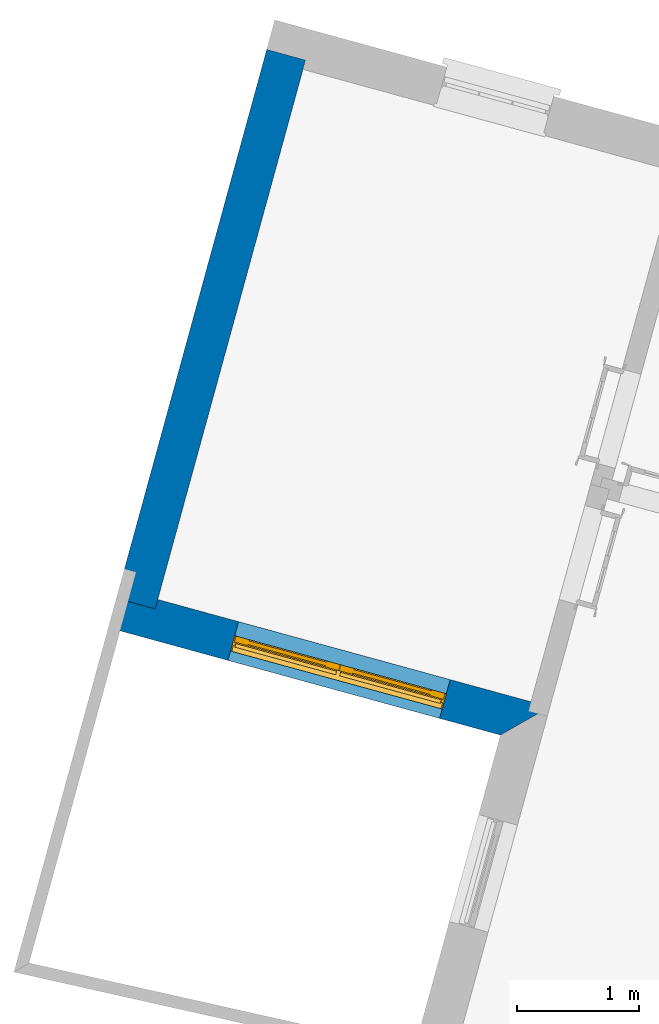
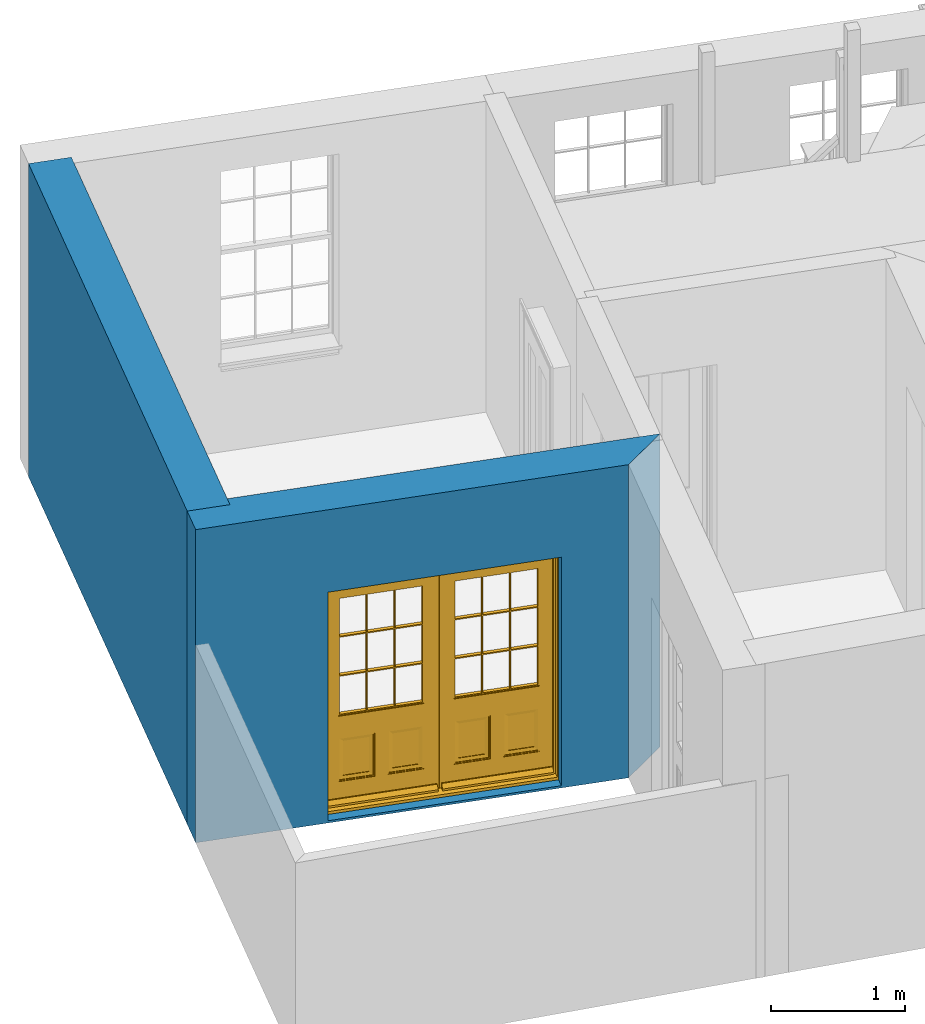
# One storey, part 3 of 7: 2 walls, 1 door, 1 opening.
"""IFC4 building model written with IfcOpenShell, lengths in metres."""

from ifc_helpers import new_model, si_unit, frame, origin, origin_with_axes, place, context, subcontext, project, spatial, polyline, outline, extrude, faceted_brep, source, transform, mapped, material, layer, layer_set, layer_usage, type_object, type_shapes, element, fill, save


model = new_model("IFC4")

# Units and contexts
model_context = context("Model", 3, world=origin_with_axes())
body_context = subcontext(model_context, "Body", "Model", "MODEL_VIEW")
ifc_project = project(units=[si_unit("PLANEANGLEUNIT", "RADIAN"), si_unit("MASSUNIT", "GRAM", prefix="KILO"), si_unit("FORCEUNIT", "NEWTON", prefix="KILO"), si_unit("LENGTHUNIT", "METRE"), si_unit("AREAUNIT", "SQUARE_METRE"), si_unit("VOLUMEUNIT", "CUBIC_METRE")], contexts=[model_context, model_context])

# Sites, building, storey
site_1_placement = place(None, origin_with_axes())
site_1 = spatial("IfcSite", under=ifc_project, at=site_1_placement, Name="Tamar")
site_2_placement = place(site_1_placement, origin_with_axes())
site_2 = spatial("IfcSite", under=site_1, at=site_2_placement, Name="Site plot-29", CompositionType="ELEMENT")
building_placement = place(None, origin_with_axes())
building = spatial("IfcBuilding", under=site_2, at=building_placement, Name="Building plot-29", CompositionType="ELEMENT")
storey_placement = place(None, frame((0.0, 0.0, 25.0), z_axis=(0.0, 0.0, 1.0), x_axis=(1.0, 0.0, 0.0)))
storey = spatial("IfcBuildingStorey", under=building, at=storey_placement, Name="plot-29 0", CompositionType="ELEMENT", Elevation=25.0)

# Wall, opening, door
ifc_material_1 = material(Name="Masonry")
ifc_layer_1 = layer(ifc_material_1, 0.33, ventilated=False)
ifc_layer_set_1 = layer_set([ifc_layer_1], Name="exterior_0.08_0.25")
ifc_layer_usage_1 = layer_usage(ifc_layer_set_1, "AXIS2", "POSITIVE", -0.25)
wall_type_1 = type_object("IfcWallType", Name="exterior_0.08_0.25", PredefinedType="SOLIDWALL", material=ifc_layer_set_1)
wall_1_placement = place(storey_placement, frame((269.834483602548, 261.552062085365, 0.0), z_axis=(0.0, 0.0, 1.0), x_axis=(0.96445276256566, -0.264255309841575, 0.0)))
wall_1 = element("IfcWall", 1, at=wall_1_placement, inside=storey, type_object=wall_type_1, material=ifc_layer_usage_1, Name="exterior", context=body_context, shape_type="SweptSolid", body=[
    extrude(outline(polyline([(-0.249999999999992, 0.0799999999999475), (-0.249999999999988, -0.250000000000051), (3.08559293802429, -0.250000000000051), (3.41559293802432, 0.0800000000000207), (-0.249999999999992, 0.0799999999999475)])), origin_with_axes(), (0.0, 0.0, 1.0), 2.85),
])
opening_placement = place(wall_1_placement, frame((0.767796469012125, 0.0, 0.0199999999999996)))
opening = element("IfcOpeningElement", 2, at=opening_placement, cuts=wall_1, Name="My Opening", ObjectType="Opening", context=body_context, shape_type="SweptSolid", body=[
    extrude(outline(polyline([(0.0, -0.270000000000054), (1.79999999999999, -0.269999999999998), (1.80000000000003, 1.10000000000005), (3.61932706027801e-14, 1.1), (0.0, -0.270000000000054)])), origin_with_axes(), (0.0, 0.0, 1.0), 2.08),
])
door_type = type_object("IfcDoorType", Name="door_panelled_double", OperationType="SINGLE_SWING_LEFT", PredefinedType="NOTDEFINED")
shared_shape = source(origin(), body_context, "Body", "Brep", [
    faceted_brep([(0.545, 0.195, 0.265), (0.745, 0.195, 0.265), (0.745, 0.2, 0.265), (0.545, 0.2, 0.265), (0.745, 0.2, 0.58), (0.545, 0.2, 0.58), (0.545, 0.195, 0.58), (0.515, 0.19, 0.235), (0.775, 0.19, 0.235), (0.745, 0.195, 0.58), (0.515, 0.19, 0.61), (0.515, 0.185, 0.235), (0.775, 0.185, 0.235), (0.775, 0.19, 0.61), (0.515, 0.185, 0.61), (0.785, 0.185, 0.225), (0.505, 0.185, 0.225), (0.775, 0.185, 0.61), (0.505, 0.185, 0.62), (0.785, 0.185, 0.62), (0.505, 0.18, 0.225), (0.785, 0.18, 0.225), (0.505, 0.18, 0.62), (0.785, 0.18, 0.62), (0.883, 0.18, 0.075), (0.898, 0.18, 0.075), (0.405, 0.18, 0.62), (0.405, 0.18, 0.225), (0.027, 0.18, 0.075), (0.785, 0.18, 0.82), (0.125, 0.18, 0.82), (0.405, 0.185, 0.62), (0.405, 0.185, 0.225), (0.898, 0.18, 2.068), (0.027, 0.17, 0.075), (0.883, 0.17, 0.075), (0.125, 0.18, 0.225), (0.012, 0.18, 0.075), (0.785, 0.19, 0.82), (0.125, 0.19, 0.82), (0.125, 0.18, 0.62), (0.125, 0.185, 0.62), (0.395, 0.185, 0.61), (0.395, 0.185, 0.235), (0.125, 0.185, 0.225), (0.785, 0.18, 1.895), (0.027, 0.14, 0.045), (0.883, 0.14, 0.045), (0.558333, 0.19, 0.83), (0.351667, 0.19, 0.83), (0.125, 0.18, 1.895), (0.125, 0.19, 1.895), (0.785, 0.19, 1.895), (0.012, 0.18, 2.068), (0.135, 0.185, 0.61), (0.395, 0.19, 0.61), (0.395, 0.19, 0.235), (0.135, 0.185, 0.235), (0.027, 0.14, 0.027), (0.883, 0.14, 0.027), (0.568333, 0.19, 0.83), (0.558333, 0.22, 0.83), (0.351667, 0.22, 0.83), (0.341667, 0.19, 0.83), (0.135, 0.19, 1.185), (0.135, 0.19, 1.53), (0.775, 0.19, 1.53), (0.775, 0.19, 1.185), (0.135, 0.19, 0.61), (0.365, 0.195, 0.58), (0.365, 0.195, 0.265), (0.135, 0.19, 0.235), (0.568333, 0.19, 1.175), (0.558333, 0.19, 1.175), (0.775, 0.19, 0.83), (0.558333, 0.22, 1.175), (0.785, 0.22, 0.82), (0.125, 0.22, 0.82), (0.351667, 0.22, 1.175), (0.351667, 0.19, 1.175), (0.341667, 0.19, 1.175), (0.135, 0.19, 0.83), (0.135, 0.19, 1.175), (0.135, 0.22, 1.185), (0.135, 0.22, 1.53), (0.135, 0.19, 1.54), (0.351667, 0.19, 1.885), (0.558333, 0.19, 1.885), (0.775, 0.22, 1.53), (0.775, 0.22, 1.185), (0.775, 0.19, 1.175), (0.775, 0.19, 1.54), (0.165, 0.195, 0.58), (0.365, 0.2, 0.58), (0.365, 0.2, 0.265), (0.165, 0.195, 0.265), (0.568333, 0.22, 0.83), (0.568333, 0.22, 1.175), (0.568333, 0.19, 1.185), (0.558333, 0.19, 1.185), (0.775, 0.22, 0.83), (0.785, 0.23, 0.82), (0.125, 0.23, 0.82), (0.341667, 0.22, 0.83), (0.341667, 0.22, 1.175), (0.351667, 0.19, 1.185), (0.341667, 0.19, 1.185), (0.135, 0.22, 0.83), (0.341667, 0.22, 1.185), (0.125, 0.22, 1.895), (0.341667, 0.22, 1.53), (0.341667, 0.19, 1.53), (0.135, 0.19, 1.885), (0.341667, 0.19, 1.54), (0.341667, 0.19, 1.885), (0.558333, 0.22, 1.885), (0.351667, 0.22, 1.885), (0.568333, 0.19, 1.885), (0.785, 0.22, 1.895), (0.568333, 0.22, 1.185), (0.568333, 0.19, 1.53), (0.568333, 0.22, 1.53), (0.568333, 0.19, 1.54), (0.775, 0.19, 1.885), (0.165, 0.2, 0.58), (0.165, 0.2, 0.265), (0.775, 0.22, 1.175), (0.558333, 0.19, 1.53), (0.351667, 0.22, 1.185), (0.558333, 0.22, 1.185), (0.505, 0.23, 0.62), (0.405, 0.23, 0.62), (0.125, 0.23, 1.895), (0.785, 0.23, 1.895), (0.351667, 0.19, 1.53), (0.135, 0.22, 1.175), (0.135, 0.22, 1.54), (0.341667, 0.22, 1.54), (0.135, 0.22, 1.885), (0.351667, 0.19, 1.54), (0.558333, 0.22, 1.54), (0.558333, 0.19, 1.54), (0.351667, 0.22, 1.54), (0.775, 0.22, 1.54), (0.568333, 0.22, 1.54), (0.775, 0.22, 1.885), (0.558333, 0.22, 1.53), (0.405, 0.23, 0.225), (0.505, 0.23, 0.225), (0.125, 0.23, 0.62), (0.785, 0.23, 0.62), (0.012, 0.23, 2.068), (0.898, 0.23, 2.068), (0.351667, 0.22, 1.53), (0.341667, 0.22, 1.885), (0.568333, 0.22, 1.885), (0.405, 0.225, 0.225), (0.405, 0.225, 0.62), (0.505, 0.225, 0.62), (0.505, 0.225, 0.225), (0.898, 0.23, 0.027), (0.012, 0.23, 0.027), (0.125, 0.225, 0.62), (0.785, 0.225, 0.62), (0.395, 0.225, 0.235), (0.395, 0.225, 0.61), (0.125, 0.23, 0.225), (0.125, 0.225, 0.225), (0.515, 0.225, 0.61), (0.515, 0.225, 0.235), (0.785, 0.23, 0.225), (0.785, 0.225, 0.225), (0.135, 0.225, 0.61), (0.775, 0.225, 0.61), (0.135, 0.225, 0.235), (0.395, 0.22, 0.235), (0.395, 0.22, 0.61), (0.515, 0.22, 0.61), (0.515, 0.22, 0.235), (0.775, 0.225, 0.235), (0.135, 0.22, 0.61), (0.775, 0.22, 0.61), (0.135, 0.22, 0.235), (0.365, 0.215, 0.265), (0.365, 0.215, 0.58), (0.545, 0.215, 0.58), (0.545, 0.215, 0.265), (0.775, 0.22, 0.235), (0.165, 0.215, 0.58), (0.745, 0.215, 0.58), (0.165, 0.215, 0.265), (0.365, 0.21, 0.58), (0.365, 0.21, 0.265), (0.545, 0.21, 0.58), (0.545, 0.21, 0.265), (0.745, 0.215, 0.265), (0.165, 0.21, 0.58), (0.745, 0.21, 0.58), (0.165, 0.21, 0.265), (0.745, 0.21, 0.265), (1.775, 0.178, 0.025), (0.025, 0.178, 0.025), (0.025, 0.15, 0.025), (1.775, 0.15, 0.025), (1.79, 0.23, 0.025), (0.01, 0.23, 0.025), (1.79, 0.178, 0.025), (1.8, 0.23, 0.0), (0.0, 0.23, 0.0), (0.01, 0.178, 0.025), (1.79, 0.178, 2.07), (1.79, 0.23, 2.07), (1.775, 0.178, 2.055), (1.8, 0.23, 2.08), (0.01, 0.23, 2.07), (0.0, 0.23, 2.08), (0.01, 0.178, 2.07), (0.025, 0.178, 2.055), (0.0, 0.1, 2.08), (1.8, 0.1, 2.08), (0.01, 0.1, 2.07), (1.79, 0.1, 2.07), (0.01, 0.15, 2.07), (1.79, 0.15, 2.07), (0.0, 0.1, 0.0), (1.8, 0.1, 0.0), (0.01, 0.1, 0.025), (1.79, 0.1, 0.025), (0.01, 0.15, 0.025), (0.025, 0.15, 2.055), (1.79, 0.15, 0.025), (1.775, 0.15, 2.055), (0.898, 0.18, 0.027), (0.012, 0.18, 0.027), (0.883, 0.18, 0.027), (0.027, 0.18, 0.027), (1.435, 0.195, 0.265), (1.635, 0.195, 0.265), (1.635, 0.2, 0.265), (1.435, 0.2, 0.265), (1.635, 0.2, 0.58), (1.435, 0.2, 0.58), (1.435, 0.195, 0.58), (1.405, 0.19, 0.235), (1.665, 0.19, 0.235), (1.635, 0.195, 0.58), (1.405, 0.19, 0.61), (1.405, 0.185, 0.235), (1.665, 0.185, 0.235), (1.665, 0.19, 0.61), (1.405, 0.185, 0.61), (1.675, 0.185, 0.225), (1.395, 0.185, 0.225), (1.665, 0.185, 0.61), (1.395, 0.185, 0.62), (1.675, 0.185, 0.62), (1.395, 0.18, 0.225), (1.675, 0.18, 0.225), (1.395, 0.18, 0.62), (1.675, 0.18, 0.62), (1.773, 0.18, 0.075), (1.788, 0.18, 0.075), (1.295, 0.18, 0.62), (1.295, 0.18, 0.225), (0.917, 0.18, 0.075), (1.675, 0.18, 0.82), (1.015, 0.18, 0.82), (1.295, 0.185, 0.62), (1.295, 0.185, 0.225), (1.788, 0.18, 2.068), (0.917, 0.17, 0.075), (1.773, 0.17, 0.075), (1.015, 0.18, 0.225), (0.902, 0.18, 0.075), (1.675, 0.19, 0.82), (1.015, 0.19, 0.82), (1.015, 0.18, 0.62), (1.015, 0.185, 0.62), (1.285, 0.185, 0.61), (1.285, 0.185, 0.235), (1.015, 0.185, 0.225), (1.675, 0.18, 1.895), (0.917, 0.14, 0.045), (1.773, 0.14, 0.045), (1.448333, 0.19, 0.83), (1.241667, 0.19, 0.83), (1.015, 0.18, 1.895), (1.015, 0.19, 1.895), (1.675, 0.19, 1.895), (0.902, 0.18, 2.068), (1.025, 0.185, 0.61), (1.285, 0.19, 0.61), (1.285, 0.19, 0.235), (1.025, 0.185, 0.235), (0.917, 0.14, 0.027), (1.773, 0.14, 0.027), (1.458333, 0.19, 0.83), (1.448333, 0.22, 0.83), (1.241667, 0.22, 0.83), (1.231667, 0.19, 0.83), (1.025, 0.19, 1.185), (1.025, 0.19, 1.53), (1.665, 0.19, 1.53), (1.665, 0.19, 1.185), (1.025, 0.19, 0.61), (1.255, 0.195, 0.58), (1.255, 0.195, 0.265), (1.025, 0.19, 0.235), (1.458333, 0.19, 1.175), (1.448333, 0.19, 1.175), (1.665, 0.19, 0.83), (1.448333, 0.22, 1.175), (1.675, 0.22, 0.82), (1.015, 0.22, 0.82), (1.241667, 0.22, 1.175), (1.241667, 0.19, 1.175), (1.231667, 0.19, 1.175), (1.025, 0.19, 0.83), (1.025, 0.19, 1.175), (1.025, 0.22, 1.185), (1.025, 0.22, 1.53), (1.025, 0.19, 1.54), (1.241667, 0.19, 1.885), (1.448333, 0.19, 1.885), (1.665, 0.22, 1.53), (1.665, 0.22, 1.185), (1.665, 0.19, 1.175), (1.665, 0.19, 1.54), (1.055, 0.195, 0.58), (1.255, 0.2, 0.58), (1.255, 0.2, 0.265), (1.055, 0.195, 0.265), (1.458333, 0.22, 0.83), (1.458333, 0.22, 1.175), (1.458333, 0.19, 1.185), (1.448333, 0.19, 1.185), (1.665, 0.22, 0.83), (1.675, 0.23, 0.82), (1.015, 0.23, 0.82), (1.231667, 0.22, 0.83), (1.231667, 0.22, 1.175), (1.241667, 0.19, 1.185), (1.231667, 0.19, 1.185), (1.025, 0.22, 0.83), (1.231667, 0.22, 1.185), (1.015, 0.22, 1.895), (1.231667, 0.22, 1.53), (1.231667, 0.19, 1.53), (1.025, 0.19, 1.885), (1.231667, 0.19, 1.54), (1.231667, 0.19, 1.885), (1.448333, 0.22, 1.885), (1.241667, 0.22, 1.885), (1.458333, 0.19, 1.885), (1.675, 0.22, 1.895), (1.458333, 0.22, 1.185), (1.458333, 0.19, 1.53), (1.458333, 0.22, 1.53), (1.458333, 0.19, 1.54), (1.665, 0.19, 1.885), (1.055, 0.2, 0.58), (1.055, 0.2, 0.265), (1.665, 0.22, 1.175), (1.448333, 0.19, 1.53), (1.241667, 0.22, 1.185), (1.448333, 0.22, 1.185), (1.395, 0.23, 0.62), (1.295, 0.23, 0.62), (1.015, 0.23, 1.895), (1.675, 0.23, 1.895), (1.241667, 0.19, 1.53), (1.025, 0.22, 1.175), (1.025, 0.22, 1.54), (1.231667, 0.22, 1.54), (1.025, 0.22, 1.885), (1.241667, 0.19, 1.54), (1.448333, 0.22, 1.54), (1.448333, 0.19, 1.54), (1.241667, 0.22, 1.54), (1.665, 0.22, 1.54), (1.458333, 0.22, 1.54), (1.665, 0.22, 1.885), (1.448333, 0.22, 1.53), (1.295, 0.23, 0.225), (1.395, 0.23, 0.225), (1.015, 0.23, 0.62), (1.675, 0.23, 0.62), (0.902, 0.23, 2.068), (1.788, 0.23, 2.068), (1.241667, 0.22, 1.53), (1.231667, 0.22, 1.885), (1.458333, 0.22, 1.885), (1.295, 0.225, 0.225), (1.295, 0.225, 0.62), (1.395, 0.225, 0.62), (1.395, 0.225, 0.225), (1.788, 0.23, 0.027), (0.902, 0.23, 0.027), (1.015, 0.225, 0.62), (1.675, 0.225, 0.62), (1.285, 0.225, 0.235), (1.285, 0.225, 0.61), (1.015, 0.23, 0.225), (1.015, 0.225, 0.225), (1.405, 0.225, 0.61), (1.405, 0.225, 0.235), (1.675, 0.23, 0.225), (1.675, 0.225, 0.225), (1.025, 0.225, 0.61), (1.665, 0.225, 0.61), (1.025, 0.225, 0.235), (1.285, 0.22, 0.235), (1.285, 0.22, 0.61), (1.405, 0.22, 0.61), (1.405, 0.22, 0.235), (1.665, 0.225, 0.235), (1.025, 0.22, 0.61), (1.665, 0.22, 0.61), (1.025, 0.22, 0.235), (1.255, 0.215, 0.265), (1.255, 0.215, 0.58), (1.435, 0.215, 0.58), (1.435, 0.215, 0.265), (1.665, 0.22, 0.235), (1.055, 0.215, 0.58), (1.635, 0.215, 0.58), (1.055, 0.215, 0.265), (1.255, 0.21, 0.58), (1.255, 0.21, 0.265), (1.435, 0.21, 0.58), (1.435, 0.21, 0.265), (1.635, 0.215, 0.265), (1.055, 0.21, 0.58), (1.635, 0.21, 0.58), (1.055, 0.21, 0.265), (1.635, 0.21, 0.265), (1.788, 0.18, 0.027), (0.902, 0.18, 0.027), (1.773, 0.18, 0.027), (0.917, 0.18, 0.027)], [[[0, 1, 2, 3]], [[2, 4, 5, 3]], [[0, 3, 5, 6]], [[1, 0, 7, 8]], [[9, 4, 2, 1]], [[9, 6, 5, 4]], [[0, 6, 10, 7]], [[8, 7, 11, 12]], [[8, 13, 9, 1]], [[13, 10, 6, 9]], [[7, 10, 14, 11]], [[15, 12, 11, 16]], [[12, 17, 13, 8]], [[17, 14, 10, 13]], [[18, 16, 11, 14]], [[15, 19, 17, 12]], [[15, 16, 20, 21]], [[14, 17, 19, 18]], [[16, 18, 22, 20]], [[21, 23, 19, 15]], [[24, 25, 21, 20]], [[23, 22, 18, 19]], [[20, 22, 26, 27]], [[23, 21, 25]], [[28, 24, 20, 27]], [[22, 23, 29]], [[29, 30, 26, 22]], [[27, 26, 31, 32]], [[23, 25, 33, 29]], [[34, 35, 24, 28]], [[28, 27, 36, 37]], [[38, 39, 30, 29]], [[26, 30, 40]], [[26, 40, 41, 31]], [[42, 43, 32, 31]], [[32, 44, 36, 27]], [[33, 45, 29]], [[46, 47, 35, 34]], [[36, 40, 37]], [[39, 38, 48, 49]], [[50, 30, 39, 51]], [[29, 45, 52, 38]], [[53, 37, 40, 30]], [[44, 41, 40, 36]], [[31, 41, 54, 42]], [[43, 42, 55, 56]], [[57, 44, 32, 43]], [[50, 45, 33, 53]], [[47, 46, 58, 59]], [[60, 48, 38]], [[49, 48, 61, 62]], [[49, 63, 39]], [[50, 53, 30]], [[51, 39, 64, 65]], [[45, 50, 51, 52]], [[66, 67, 38, 52]], [[57, 54, 41, 44]], [[42, 54, 68, 55]], [[56, 55, 69, 70]], [[56, 71, 57, 43]], [[60, 72, 73, 48]], [[60, 38, 74]], [[48, 73, 75, 61]], [[76, 77, 62, 61]], [[62, 78, 79, 49]], [[49, 79, 80, 63]], [[63, 81, 39]], [[82, 64, 39]], [[65, 64, 83, 84]], [[85, 51, 65]], [[52, 51, 86, 87]], [[88, 89, 67, 66]], [[90, 38, 67]], [[91, 66, 52]], [[71, 68, 54, 57]], [[55, 68, 92, 69]], [[69, 93, 94, 70]], [[70, 95, 71, 56]], [[96, 97, 72, 60]], [[73, 72, 98, 99]], [[74, 38, 90]], [[100, 96, 60, 74]], [[75, 73, 79, 78]], [[61, 75, 97, 96]], [[101, 102, 77, 76]], [[77, 103, 62]], [[96, 76, 61]], [[103, 104, 78, 62]], [[80, 79, 105, 106]], [[63, 80, 104, 103]], [[81, 63, 103, 107]], [[81, 82, 39]], [[106, 64, 82, 80]], [[106, 108, 83, 64]], [[84, 83, 77, 109]], [[110, 111, 65, 84]], [[112, 51, 85]], [[113, 85, 65, 111]], [[114, 86, 51]], [[115, 87, 86, 116]], [[117, 52, 87]], [[118, 76, 89, 88]], [[119, 98, 67, 89]], [[120, 121, 88, 66]], [[67, 98, 72, 90]], [[91, 122, 120, 66]], [[91, 52, 123]], [[95, 92, 68, 71]], [[69, 92, 124, 93]], [[94, 93, 124, 125]], [[94, 125, 95, 70]], [[72, 97, 126, 90]], [[127, 99, 98, 120]], [[99, 105, 79, 73]], [[74, 90, 126, 100]], [[96, 100, 76]], [[128, 129, 75, 78]], [[97, 75, 129, 119]], [[130, 131, 102, 101]], [[109, 77, 102, 132]], [[133, 101, 76, 118]], [[77, 107, 103]], [[78, 104, 108, 128]], [[111, 106, 105, 134]], [[104, 80, 82, 135]], [[107, 135, 82, 81]], [[110, 108, 106, 111]], [[104, 135, 83, 108]], [[83, 135, 77]], [[136, 84, 109]], [[110, 84, 136, 137]], [[114, 51, 112]], [[85, 136, 138, 112]], [[113, 137, 136, 85]], [[111, 134, 139, 113]], [[86, 114, 113, 139]], [[140, 141, 87, 115]], [[139, 142, 116, 86]], [[109, 118, 115, 116]], [[117, 123, 52]], [[117, 87, 141, 122]], [[126, 89, 76]], [[143, 118, 88]], [[120, 98, 119, 121]], [[119, 89, 126, 97]], [[144, 143, 88, 121]], [[144, 122, 91, 143]], [[127, 120, 122, 141]], [[143, 91, 123, 145]], [[124, 92, 95, 125]], [[146, 129, 99, 127]], [[99, 129, 128, 105]], [[100, 126, 76]], [[121, 119, 129, 146]], [[147, 131, 130, 148]], [[131, 149, 102]], [[130, 101, 150]], [[102, 151, 132]], [[118, 109, 132, 133]], [[101, 133, 152]], [[107, 77, 135]], [[153, 128, 108, 110]], [[134, 105, 128, 153]], [[109, 138, 136]], [[153, 110, 137, 142]], [[154, 114, 112, 138]], [[137, 113, 114, 154]], [[141, 139, 134, 127]], [[141, 140, 142, 139]], [[144, 140, 115, 155]], [[142, 137, 154, 116]], [[155, 115, 118]], [[116, 154, 109]], [[117, 155, 145, 123]], [[122, 144, 155, 117]], [[143, 145, 118]], [[121, 146, 140, 144]], [[146, 127, 134, 153]], [[156, 157, 131, 147]], [[148, 130, 158, 159]], [[148, 160, 161, 147]], [[157, 162, 149, 131]], [[161, 151, 102, 149]], [[101, 152, 160, 150]], [[163, 158, 130, 150]], [[151, 152, 133, 132]], [[154, 138, 109]], [[142, 140, 146, 153]], [[145, 155, 118]], [[157, 156, 164, 165]], [[147, 166, 167, 156]], [[168, 169, 159, 158]], [[170, 148, 159, 171]], [[148, 170, 160]], [[166, 147, 161]], [[172, 162, 157, 165]], [[166, 149, 162, 167]], [[166, 161, 149]], [[150, 160, 170]], [[163, 173, 168, 158]], [[171, 163, 150, 170]], [[174, 164, 156, 167]], [[175, 176, 165, 164]], [[169, 168, 177, 178]], [[171, 159, 169, 179]], [[167, 162, 172, 174]], [[176, 180, 172, 165]], [[179, 173, 163, 171]], [[181, 177, 168, 173]], [[164, 174, 182, 175]], [[183, 184, 176, 175]], [[178, 177, 185, 186]], [[179, 169, 178, 187]], [[174, 172, 180, 182]], [[184, 188, 180, 176]], [[187, 181, 173, 179]], [[189, 185, 177, 181]], [[175, 182, 190, 183]], [[191, 184, 183, 192]], [[185, 193, 194, 186]], [[187, 178, 186, 195]], [[182, 180, 188, 190]], [[191, 196, 188, 184]], [[195, 189, 181, 187]], [[197, 193, 185, 189]], [[183, 190, 198, 192]], [[198, 196, 191, 192]], [[194, 193, 197, 199]], [[195, 186, 194, 199]], [[188, 196, 198, 190]], [[197, 189, 195, 199]], [[200, 201, 202, 203]], [[201, 200, 204, 205]], [[206, 204, 200]], [[204, 207, 208, 205]], [[209, 201, 205]], [[210, 211, 204, 206]], [[206, 200, 212, 210]], [[211, 213, 207, 204]], [[214, 205, 208, 215]], [[216, 217, 201, 209]], [[205, 214, 216, 209]], [[216, 214, 211, 210]], [[210, 212, 217, 216]], [[214, 215, 213, 211]], [[218, 219, 213, 215]], [[219, 218, 220, 221]], [[221, 220, 222, 223]], [[215, 208, 224, 218]], [[225, 224, 208, 207]], [[224, 226, 220, 218]], [[224, 225, 227, 226]], [[219, 225, 207, 213]], [[228, 222, 220, 226]], [[219, 221, 227, 225]], [[226, 227, 203, 202]], [[202, 229, 222, 228]], [[228, 226, 202]], [[227, 221, 223, 230]], [[230, 203, 227]], [[217, 229, 202, 201]], [[231, 223, 222, 229]], [[230, 223, 231, 203]], [[231, 229, 217, 212]], [[212, 200, 203, 231]], [[33, 152, 151, 53]], [[25, 160, 152, 33]], [[161, 37, 53, 151]], [[232, 160, 25]], [[161, 233, 37]], [[160, 232, 234]], [[24, 234, 232, 25]], [[233, 161, 235]], [[37, 233, 235, 28]], [[161, 160, 234, 235]], [[35, 47, 234, 24]], [[28, 235, 46, 34]], [[58, 235, 234, 59]], [[59, 234, 47]], [[58, 46, 235]], [[236, 237, 238, 239]], [[238, 240, 241, 239]], [[236, 239, 241, 242]], [[237, 236, 243, 244]], [[245, 240, 238, 237]], [[245, 242, 241, 240]], [[236, 242, 246, 243]], [[244, 243, 247, 248]], [[244, 249, 245, 237]], [[249, 246, 242, 245]], [[243, 246, 250, 247]], [[251, 248, 247, 252]], [[248, 253, 249, 244]], [[253, 250, 246, 249]], [[254, 252, 247, 250]], [[251, 255, 253, 248]], [[251, 252, 256, 257]], [[250, 253, 255, 254]], [[252, 254, 258, 256]], [[257, 259, 255, 251]], [[260, 261, 257, 256]], [[259, 258, 254, 255]], [[256, 258, 262, 263]], [[259, 257, 261]], [[264, 260, 256, 263]], [[258, 259, 265]], [[265, 266, 262, 258]], [[263, 262, 267, 268]], [[259, 261, 269, 265]], [[270, 271, 260, 264]], [[264, 263, 272, 273]], [[274, 275, 266, 265]], [[262, 266, 276]], [[262, 276, 277, 267]], [[278, 279, 268, 267]], [[268, 280, 272, 263]], [[269, 281, 265]], [[282, 283, 271, 270]], [[272, 276, 273]], [[275, 274, 284, 285]], [[286, 266, 275, 287]], [[265, 281, 288, 274]], [[289, 273, 276, 266]], [[280, 277, 276, 272]], [[267, 277, 290, 278]], [[279, 278, 291, 292]], [[293, 280, 268, 279]], [[286, 281, 269, 289]], [[283, 282, 294, 295]], [[296, 284, 274]], [[285, 284, 297, 298]], [[285, 299, 275]], [[286, 289, 266]], [[287, 275, 300, 301]], [[281, 286, 287, 288]], [[302, 303, 274, 288]], [[293, 290, 277, 280]], [[278, 290, 304, 291]], [[292, 291, 305, 306]], [[292, 307, 293, 279]], [[296, 308, 309, 284]], [[296, 274, 310]], [[284, 309, 311, 297]], [[312, 313, 298, 297]], [[298, 314, 315, 285]], [[285, 315, 316, 299]], [[299, 317, 275]], [[318, 300, 275]], [[301, 300, 319, 320]], [[321, 287, 301]], [[288, 287, 322, 323]], [[324, 325, 303, 302]], [[326, 274, 303]], [[327, 302, 288]], [[307, 304, 290, 293]], [[291, 304, 328, 305]], [[305, 329, 330, 306]], [[306, 331, 307, 292]], [[332, 333, 308, 296]], [[309, 308, 334, 335]], [[310, 274, 326]], [[336, 332, 296, 310]], [[311, 309, 315, 314]], [[297, 311, 333, 332]], [[337, 338, 313, 312]], [[313, 339, 298]], [[332, 312, 297]], [[339, 340, 314, 298]], [[316, 315, 341, 342]], [[299, 316, 340, 339]], [[317, 299, 339, 343]], [[317, 318, 275]], [[342, 300, 318, 316]], [[342, 344, 319, 300]], [[320, 319, 313, 345]], [[346, 347, 301, 320]], [[348, 287, 321]], [[349, 321, 301, 347]], [[350, 322, 287]], [[351, 323, 322, 352]], [[353, 288, 323]], [[354, 312, 325, 324]], [[355, 334, 303, 325]], [[356, 357, 324, 302]], [[303, 334, 308, 326]], [[327, 358, 356, 302]], [[327, 288, 359]], [[331, 328, 304, 307]], [[305, 328, 360, 329]], [[330, 329, 360, 361]], [[330, 361, 331, 306]], [[308, 333, 362, 326]], [[363, 335, 334, 356]], [[335, 341, 315, 309]], [[310, 326, 362, 336]], [[332, 336, 312]], [[364, 365, 311, 314]], [[333, 311, 365, 355]], [[366, 367, 338, 337]], [[345, 313, 338, 368]], [[369, 337, 312, 354]], [[313, 343, 339]], [[314, 340, 344, 364]], [[347, 342, 341, 370]], [[340, 316, 318, 371]], [[343, 371, 318, 317]], [[346, 344, 342, 347]], [[340, 371, 319, 344]], [[319, 371, 313]], [[372, 320, 345]], [[346, 320, 372, 373]], [[350, 287, 348]], [[321, 372, 374, 348]], [[349, 373, 372, 321]], [[347, 370, 375, 349]], [[322, 350, 349, 375]], [[376, 377, 323, 351]], [[375, 378, 352, 322]], [[345, 354, 351, 352]], [[353, 359, 288]], [[353, 323, 377, 358]], [[362, 325, 312]], [[379, 354, 324]], [[356, 334, 355, 357]], [[355, 325, 362, 333]], [[380, 379, 324, 357]], [[380, 358, 327, 379]], [[363, 356, 358, 377]], [[379, 327, 359, 381]], [[360, 328, 331, 361]], [[382, 365, 335, 363]], [[335, 365, 364, 341]], [[336, 362, 312]], [[357, 355, 365, 382]], [[383, 367, 366, 384]], [[367, 385, 338]], [[366, 337, 386]], [[338, 387, 368]], [[354, 345, 368, 369]], [[337, 369, 388]], [[343, 313, 371]], [[389, 364, 344, 346]], [[370, 341, 364, 389]], [[345, 374, 372]], [[389, 346, 373, 378]], [[390, 350, 348, 374]], [[373, 349, 350, 390]], [[377, 375, 370, 363]], [[377, 376, 378, 375]], [[380, 376, 351, 391]], [[378, 373, 390, 352]], [[391, 351, 354]], [[352, 390, 345]], [[353, 391, 381, 359]], [[358, 380, 391, 353]], [[379, 381, 354]], [[357, 382, 376, 380]], [[382, 363, 370, 389]], [[392, 393, 367, 383]], [[384, 366, 394, 395]], [[384, 396, 397, 383]], [[393, 398, 385, 367]], [[397, 387, 338, 385]], [[337, 388, 396, 386]], [[399, 394, 366, 386]], [[387, 388, 369, 368]], [[390, 374, 345]], [[378, 376, 382, 389]], [[381, 391, 354]], [[393, 392, 400, 401]], [[383, 402, 403, 392]], [[404, 405, 395, 394]], [[406, 384, 395, 407]], [[384, 406, 396]], [[402, 383, 397]], [[408, 398, 393, 401]], [[402, 385, 398, 403]], [[402, 397, 385]], [[386, 396, 406]], [[399, 409, 404, 394]], [[407, 399, 386, 406]], [[410, 400, 392, 403]], [[411, 412, 401, 400]], [[405, 404, 413, 414]], [[407, 395, 405, 415]], [[403, 398, 408, 410]], [[412, 416, 408, 401]], [[415, 409, 399, 407]], [[417, 413, 404, 409]], [[400, 410, 418, 411]], [[419, 420, 412, 411]], [[414, 413, 421, 422]], [[415, 405, 414, 423]], [[410, 408, 416, 418]], [[420, 424, 416, 412]], [[423, 417, 409, 415]], [[425, 421, 413, 417]], [[411, 418, 426, 419]], [[427, 420, 419, 428]], [[421, 429, 430, 422]], [[423, 414, 422, 431]], [[418, 416, 424, 426]], [[427, 432, 424, 420]], [[431, 425, 417, 423]], [[433, 429, 421, 425]], [[419, 426, 434, 428]], [[434, 432, 427, 428]], [[430, 429, 433, 435]], [[431, 422, 430, 435]], [[424, 432, 434, 426]], [[433, 425, 431, 435]], [[269, 388, 387, 289]], [[261, 396, 388, 269]], [[397, 273, 289, 387]], [[436, 396, 261]], [[397, 437, 273]], [[396, 436, 438]], [[260, 438, 436, 261]], [[437, 397, 439]], [[273, 437, 439, 264]], [[397, 396, 438, 439]], [[271, 283, 438, 260]], [[264, 439, 282, 270]], [[294, 439, 438, 295]], [[295, 438, 283]], [[294, 282, 439]]]),
])
type_shapes(door_type, [shared_shape])
door_placement = place(storey_placement, frame((270.503638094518, 261.088765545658, 0.0199999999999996), z_axis=(0.0, 0.0, 1.0), x_axis=(1.73601497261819, -0.475659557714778, 0.0)))
door = element("IfcDoor", 3, at=door_placement, inside=storey, type_object=door_type, Name="living outside door", OverallHeight=2.08, OverallWidth=1.8, context=body_context, shape_type="MappedRepresentation", body=[
    mapped(shared_shape, transform((0.0, 0.0, 0.0), scale=1.0)),
])
fill(opening, door)

# Wall
ifc_material_2 = material(Name="Masonry")
ifc_layer_2 = layer(ifc_material_2, 0.33, ventilated=False)
ifc_layer_set_2 = layer_set([ifc_layer_2], Name="party_0.08_0.25")
ifc_layer_usage_2 = layer_usage(ifc_layer_set_2, "AXIS2", "POSITIVE", -0.25)
wall_type_2 = type_object("IfcWallType", Name="party_0.08_0.25", PredefinedType="SOLIDWALL", material=ifc_layer_set_2)
wall_2_placement = place(storey_placement, frame((271.068303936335, 266.055136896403, 0.0), z_axis=(0.0, 0.0, 1.0), x_axis=(-0.264255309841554, -0.964452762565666, 0.0)))
element("IfcWall", 4, at=wall_2_placement, inside=storey, type_object=wall_type_2, material=ifc_layer_usage_2, Name="party", context=body_context, shape_type="SweptSolid", body=[
    extrude(outline(polyline([(2.96859905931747e-14, 0.0799999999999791), (2.62165714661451e-14, -0.25000000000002), (4.66904651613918, -0.250000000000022), (4.66904651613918, 0.0799999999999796), (2.96859905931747e-14, 0.0799999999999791)])), origin_with_axes(), (0.0, 0.0, 1.0), 2.85),
])

save(model, "model.ifc")
